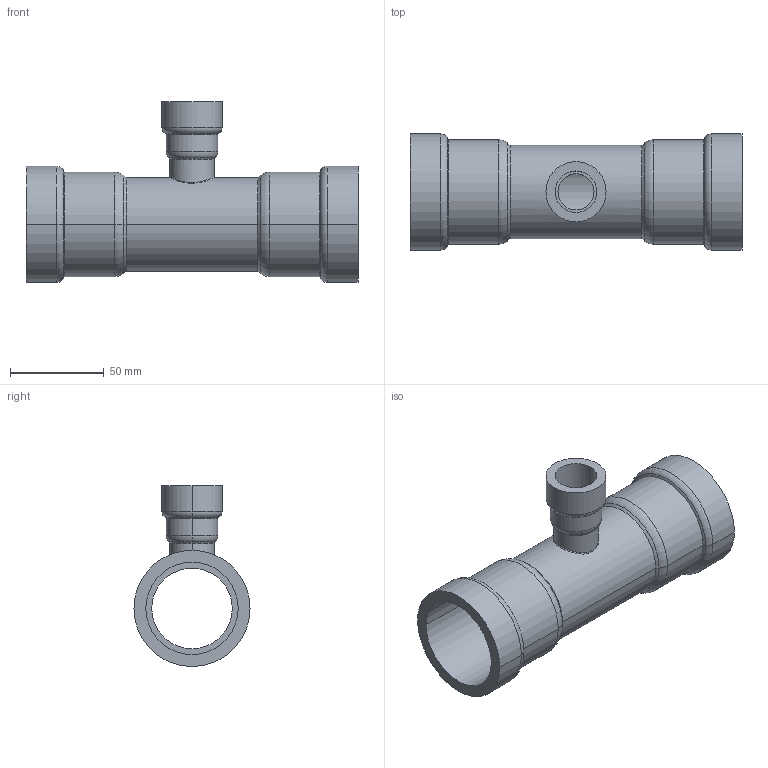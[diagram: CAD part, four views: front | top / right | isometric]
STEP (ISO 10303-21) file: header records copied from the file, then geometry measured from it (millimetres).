
FILE_DESCRIPTION(('Creo Elements/Direct Modeling STEP Export'),'2;1');
FILE_NAME('C9415_1-1-2_1-2_1-1-2.stp','2020-07-15T 9:16:43',(''),(''),'PTC Creo Elements/Direct Modeling STEP processor for AP214 (Solid Model)','PTC Creo Elements/Direct Modeling 19.0C 15-Aug-2015 (C) Parametric Technology GmbH','');
FILE_SCHEMA(('AUTOMOTIVE_DESIGN { 1 0 10303 214 1 1 1 1 }'));
Length unit declared in the file: millimetre
Products named in the file (1): 9415_1-1-2_1-2_1-1-2
Bounding box: 177.18 x 62 x 96.57 mm (x, y, z)
Volume: 126485.8 mm3; surface area: 66850.2 mm2
Topology: 1 solids, 1 shells, 60 faces, 130 edges, 76 vertices
Faces by surface type: cylinder 26, cone 12, torus 12, plane 6, bspline 4
Entity records: 4750 total; most frequent: CARTESIAN_POINT 3549, ORIENTED_EDGE 260, DIRECTION 236, EDGE_CURVE 130, AXIS2_PLACEMENT_3D 99, VERTEX_POINT 76, EDGE_LOOP 68, FACE_OUTER_BOUND 60
